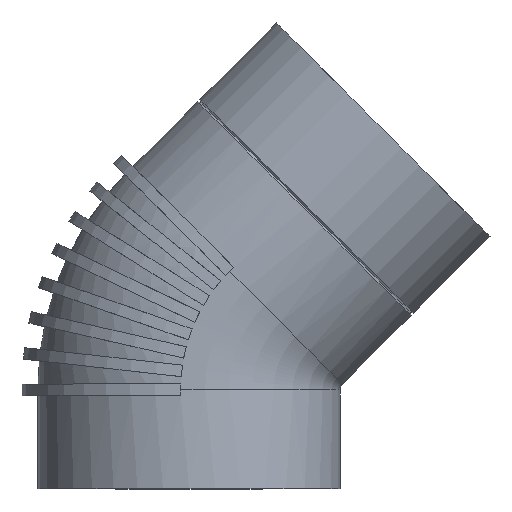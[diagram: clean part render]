
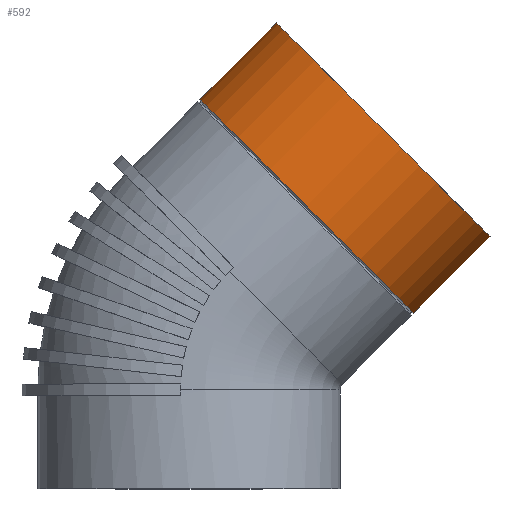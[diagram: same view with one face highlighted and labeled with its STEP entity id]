
A CAD part, top view. The second image highlights one B-rep face of the part: STEP entity #592.
In plain terms, the highlighted cylindrical face has radius 55 mm (diameter 110 mm), a full revolution.
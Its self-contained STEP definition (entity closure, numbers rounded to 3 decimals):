
#96=CYLINDRICAL_SURFACE($,#659,55.);
#114=FACE_BOUND($,#200,.T.);
#148=FACE_OUTER_BOUND($,#199,.T.);
#199=EDGE_LOOP($,(#518));
#200=EDGE_LOOP($,(#519));
#202=CIRCLE($,#598,55.);
#229=CIRCLE($,#658,55.);
#231=VERTEX_POINT($,#798);
#288=VERTEX_POINT($,#1503);
#290=EDGE_CURVE($,#231,#231,#202,.T.);
#365=EDGE_CURVE($,#288,#288,#229,.T.);
#518=ORIENTED_EDGE($,*,*,#290,.T.);
#519=ORIENTED_EDGE($,*,*,#365,.T.);
#592=ADVANCED_FACE($,(#148,#114),#96,.T.);
#598=AXIS2_PLACEMENT_3D($,#799,#666,#667);
#658=AXIS2_PLACEMENT_3D($,#1504,#790,#791);
#659=AXIS2_PLACEMENT_3D($,#1505,#792,#793);
#666=DIRECTION('center_axis',(0.707,0.707,0.));
#667=DIRECTION('ref_axis',(0.707,-0.707,0.));
#790=DIRECTION('center_axis',(-0.707,-0.707,0.));
#791=DIRECTION('ref_axis',(0.707,-0.707,0.));
#792=DIRECTION('center_axis',(-0.707,-0.707,0.));
#793=DIRECTION('ref_axis',(0.707,-0.707,0.));
#798=CARTESIAN_POINT('',(81.766,63.985,0.));
#799=CARTESIAN_POINT('Origin',(42.875,102.875,0.));
#1503=CARTESIAN_POINT('',(109.602,91.82,0.));
#1504=CARTESIAN_POINT('Origin',(70.711,130.711,0.));
#1505=CARTESIAN_POINT('Origin',(43.849,103.849,0.));
